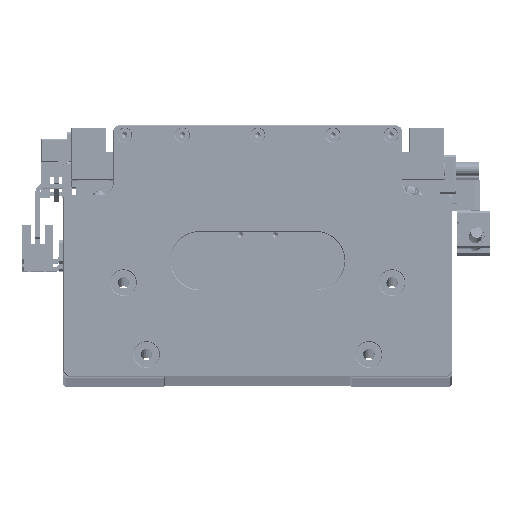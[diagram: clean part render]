
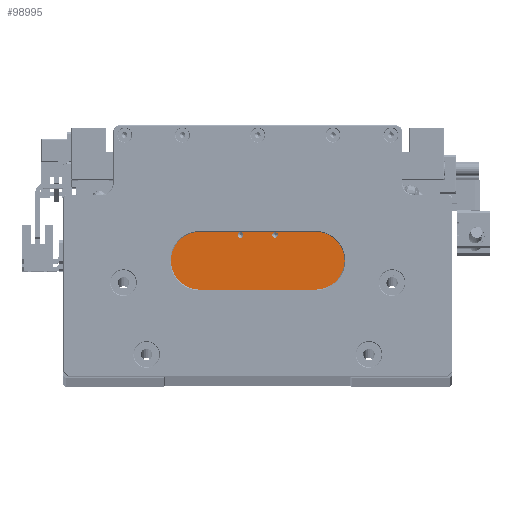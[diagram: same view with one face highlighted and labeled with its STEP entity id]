
A CAD part, top view. The second image highlights one B-rep face of the part: STEP entity #98995.
In plain terms, the highlighted planar face has unit normal (0, 0, 1).
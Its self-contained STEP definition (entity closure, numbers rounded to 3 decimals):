
#657 = DIRECTION ( 'NONE',  ( -1., 0., 0. ) ) ;
#1432 = CIRCLE ( 'NONE', #29004, 1.25 ) ;
#3001 = DIRECTION ( 'NONE',  ( 1., 0., 0. ) ) ;
#6151 = ORIENTED_EDGE ( 'NONE', *, *, #40161, .T. ) ;
#8296 = CARTESIAN_POINT ( 'NONE',  ( 33.5, 0., 125. ) ) ;
#8903 = DIRECTION ( 'NONE',  ( 0., 1., 0. ) ) ;
#9390 = AXIS2_PLACEMENT_3D ( 'NONE', #54977, #122905, #64720 ) ;
#10854 = LINE ( 'NONE', #99600, #13973 ) ;
#12473 = ORIENTED_EDGE ( 'NONE', *, *, #112940, .T. ) ;
#13833 = EDGE_CURVE ( 'NONE', #50146, #38734, #97271, .T. ) ;
#13973 = VECTOR ( 'NONE', #69919, 1000. ) ;
#16015 = LINE ( 'NONE', #33442, #61859 ) ;
#16307 = EDGE_CURVE ( 'NONE', #56042, #38734, #16015, .T. ) ;
#18549 = DIRECTION ( 'NONE',  ( 0., 0., -1. ) ) ;
#19214 = VERTEX_POINT ( 'NONE', #41715 ) ;
#19692 = VECTOR ( 'NONE', #8903, 1000. ) ;
#20022 = ORIENTED_EDGE ( 'NONE', *, *, #71464, .T. ) ;
#23458 = CARTESIAN_POINT ( 'NONE',  ( 0., -8., 125. ) ) ;
#24815 = CARTESIAN_POINT ( 'NONE',  ( -33.5, -8., 125. ) ) ;
#25020 = DIRECTION ( 'NONE',  ( 0., 0., 1. ) ) ;
#26633 = VERTEX_POINT ( 'NONE', #115205 ) ;
#26992 = EDGE_CURVE ( 'NONE', #86450, #84182, #75465, .T. ) ;
#27100 = EDGE_LOOP ( 'NONE', ( #105387, #69181, #115103, #61040, #107434, #99821, #20022, #101603 ) ) ;
#29004 = AXIS2_PLACEMENT_3D ( 'NONE', #119618, #61500, #3001 ) ;
#30343 = AXIS2_PLACEMENT_3D ( 'NONE', #63879, #25020, #93155 ) ;
#30371 = VERTEX_POINT ( 'NONE', #55242 ) ;
#33442 = CARTESIAN_POINT ( 'NONE',  ( -45., 0., 125. ) ) ;
#34574 = EDGE_LOOP ( 'NONE', ( #12473, #108854 ) ) ;
#35243 = LINE ( 'NONE', #8296, #87102 ) ;
#35288 = CIRCLE ( 'NONE', #67201, 1.25 ) ;
#38734 = VERTEX_POINT ( 'NONE', #88162 ) ;
#39169 = CARTESIAN_POINT ( 'NONE',  ( 33.5, -8., 125. ) ) ;
#39473 = LINE ( 'NONE', #67343, #19692 ) ;
#40161 = EDGE_CURVE ( 'NONE', #117459, #26633, #69276, .T. ) ;
#41715 = CARTESIAN_POINT ( 'NONE',  ( -6.25, -8., 125. ) ) ;
#41884 = DIRECTION ( 'NONE',  ( 0., 0., -1. ) ) ;
#42384 = EDGE_CURVE ( 'NONE', #59251, #86080, #35243, .T. ) ;
#42393 = DIRECTION ( 'NONE',  ( 0., -1., 0. ) ) ;
#43670 = AXIS2_PLACEMENT_3D ( 'NONE', #100213, #41884, #109965 ) ;
#49307 = CARTESIAN_POINT ( 'NONE',  ( 45., -40.2, 125. ) ) ;
#49544 = VECTOR ( 'NONE', #42393, 1000. ) ;
#49724 = VECTOR ( 'NONE', #107640, 1000. ) ;
#50146 = VERTEX_POINT ( 'NONE', #85659 ) ;
#50815 = FACE_OUTER_BOUND ( 'NONE', #27100, .T. ) ;
#52809 = LINE ( 'NONE', #97880, #49724 ) ;
#54977 = CARTESIAN_POINT ( 'NONE',  ( -7.5, -8., 125. ) ) ;
#55242 = CARTESIAN_POINT ( 'NONE',  ( 45., -8., 125. ) ) ;
#56042 = VERTEX_POINT ( 'NONE', #104523 ) ;
#59251 = VERTEX_POINT ( 'NONE', #39169 ) ;
#60716 = CARTESIAN_POINT ( 'NONE',  ( -33.5, 0., 125. ) ) ;
#61040 = ORIENTED_EDGE ( 'NONE', *, *, #63893, .T. ) ;
#61500 = DIRECTION ( 'NONE',  ( 0., 0., -1. ) ) ;
#61859 = VECTOR ( 'NONE', #81655, 1000. ) ;
#62023 = EDGE_CURVE ( 'NONE', #26633, #117459, #35288, .T. ) ;
#63879 = CARTESIAN_POINT ( 'NONE',  ( 0., 0., 125. ) ) ;
#63893 = EDGE_CURVE ( 'NONE', #50146, #30371, #39473, .T. ) ;
#64720 = DIRECTION ( 'NONE',  ( 1., 0., 0. ) ) ;
#64889 = CARTESIAN_POINT ( 'NONE',  ( -8.75, -8., 125. ) ) ;
#66771 = DIRECTION ( 'NONE',  ( 0., 1., 0. ) ) ;
#67201 = AXIS2_PLACEMENT_3D ( 'NONE', #76944, #18549, #86723 ) ;
#67343 = CARTESIAN_POINT ( 'NONE',  ( 45., 0., 125. ) ) ;
#68388 = EDGE_LOOP ( 'NONE', ( #6151, #81907 ) ) ;
#69181 = ORIENTED_EDGE ( 'NONE', *, *, #16307, .T. ) ;
#69276 = CIRCLE ( 'NONE', #43670, 1.25 ) ;
#69919 = DIRECTION ( 'NONE',  ( -1., 0., 0. ) ) ;
#71464 = EDGE_CURVE ( 'NONE', #86080, #86450, #52809, .T. ) ;
#73660 = FACE_BOUND ( 'NONE', #68388, .T. ) ;
#74578 = EDGE_CURVE ( 'NONE', #84182, #56042, #10854, .T. ) ;
#75465 = LINE ( 'NONE', #110472, #49544 ) ;
#76944 = CARTESIAN_POINT ( 'NONE',  ( 7.5, -8., 125. ) ) ;
#81655 = DIRECTION ( 'NONE',  ( 0., -1., 0. ) ) ;
#81907 = ORIENTED_EDGE ( 'NONE', *, *, #62023, .T. ) ;
#84182 = VERTEX_POINT ( 'NONE', #24815 ) ;
#85659 = CARTESIAN_POINT ( 'NONE',  ( 45., -40.2, 125. ) ) ;
#86080 = VERTEX_POINT ( 'NONE', #102212 ) ;
#86450 = VERTEX_POINT ( 'NONE', #60716 ) ;
#86723 = DIRECTION ( 'NONE',  ( 1., 0., 0. ) ) ;
#87102 = VECTOR ( 'NONE', #66771, 1000. ) ;
#88162 = CARTESIAN_POINT ( 'NONE',  ( -45., -40.2, 125. ) ) ;
#90045 = VECTOR ( 'NONE', #120846, 1000. ) ;
#93155 = DIRECTION ( 'NONE',  ( 1., 0., 0. ) ) ;
#97271 = LINE ( 'NONE', #49307, #123080 ) ;
#97880 = CARTESIAN_POINT ( 'NONE',  ( 0., 0., 125. ) ) ;
#98995 = ADVANCED_FACE ( 'NONE', ( #50815, #73660, #122247 ), #111848, .T. ) ;
#99600 = CARTESIAN_POINT ( 'NONE',  ( 0., -8., 125. ) ) ;
#99821 = ORIENTED_EDGE ( 'NONE', *, *, #42384, .T. ) ;
#100213 = CARTESIAN_POINT ( 'NONE',  ( 7.5, -8., 125. ) ) ;
#101603 = ORIENTED_EDGE ( 'NONE', *, *, #26992, .T. ) ;
#102212 = CARTESIAN_POINT ( 'NONE',  ( 33.5, 0., 125. ) ) ;
#103251 = EDGE_CURVE ( 'NONE', #114937, #19214, #118430, .T. ) ;
#104523 = CARTESIAN_POINT ( 'NONE',  ( -45., -8., 125. ) ) ;
#105387 = ORIENTED_EDGE ( 'NONE', *, *, #74578, .T. ) ;
#107434 = ORIENTED_EDGE ( 'NONE', *, *, #111234, .T. ) ;
#107640 = DIRECTION ( 'NONE',  ( -1., 0., 0. ) ) ;
#108854 = ORIENTED_EDGE ( 'NONE', *, *, #103251, .T. ) ;
#109965 = DIRECTION ( 'NONE',  ( 1., 0., 0. ) ) ;
#110472 = CARTESIAN_POINT ( 'NONE',  ( -33.5, 0., 125. ) ) ;
#111234 = EDGE_CURVE ( 'NONE', #30371, #59251, #115863, .T. ) ;
#111848 = PLANE ( 'NONE',  #30343 ) ;
#112940 = EDGE_CURVE ( 'NONE', #19214, #114937, #1432, .T. ) ;
#114937 = VERTEX_POINT ( 'NONE', #64889 ) ;
#115103 = ORIENTED_EDGE ( 'NONE', *, *, #13833, .F. ) ;
#115149 = CARTESIAN_POINT ( 'NONE',  ( 8.75, -8., 125. ) ) ;
#115205 = CARTESIAN_POINT ( 'NONE',  ( 6.25, -8., 125. ) ) ;
#115863 = LINE ( 'NONE', #23458, #90045 ) ;
#117459 = VERTEX_POINT ( 'NONE', #115149 ) ;
#118430 = CIRCLE ( 'NONE', #9390, 1.25 ) ;
#119618 = CARTESIAN_POINT ( 'NONE',  ( -7.5, -8., 125. ) ) ;
#120846 = DIRECTION ( 'NONE',  ( -1., 0., 0. ) ) ;
#122247 = FACE_BOUND ( 'NONE', #34574, .T. ) ;
#122905 = DIRECTION ( 'NONE',  ( 0., 0., -1. ) ) ;
#123080 = VECTOR ( 'NONE', #657, 1000. ) ;
